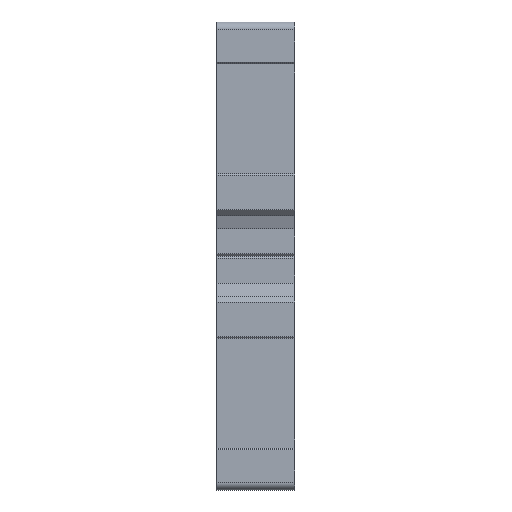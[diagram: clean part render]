
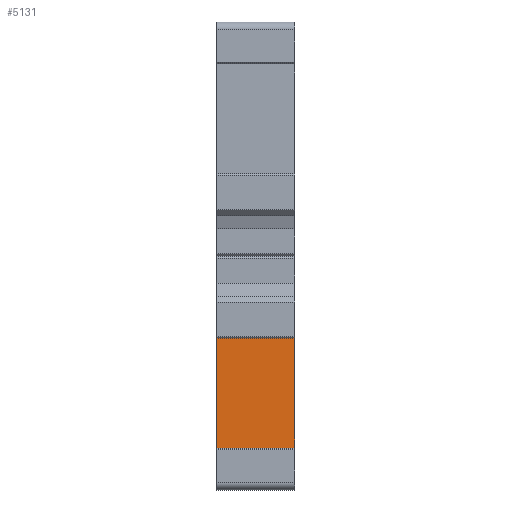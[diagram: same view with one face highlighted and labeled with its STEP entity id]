
A CAD part, left-side view. The second image highlights one B-rep face of the part: STEP entity #5131.
In plain terms, the highlighted planar face has unit normal (-1, 0, 0).
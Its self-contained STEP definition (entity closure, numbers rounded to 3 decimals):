
#264=DIRECTION('',(0.,0.,-1.));
#265=VECTOR('',#264,14.1);
#266=CARTESIAN_POINT('',(-22.3,0.,-10.525));
#267=LINE('',#266,#265);
#1108=DIRECTION('',(0.,0.,-1.));
#1109=VECTOR('',#1108,14.1);
#1110=CARTESIAN_POINT('',(-22.3,10.,-10.525));
#1111=LINE('',#1110,#1109);
#1899=DIRECTION('',(0.,1.,0.));
#1900=VECTOR('',#1899,10.);
#1901=CARTESIAN_POINT('',(-22.3,0.,-10.525));
#1902=LINE('',#1901,#1900);
#1903=DIRECTION('',(0.,1.,0.));
#1904=VECTOR('',#1903,10.);
#1905=CARTESIAN_POINT('',(-22.3,0.,-24.625));
#1906=LINE('',#1905,#1904);
#2506=CARTESIAN_POINT('',(-22.3,0.,-10.525));
#2508=VERTEX_POINT('',#2506);
#2509=CARTESIAN_POINT('',(-22.3,0.,-24.625));
#2510=VERTEX_POINT('',#2509);
#2570=CARTESIAN_POINT('',(-22.3,10.,-10.525));
#2572=VERTEX_POINT('',#2570);
#2573=CARTESIAN_POINT('',(-22.3,10.,-24.625));
#2574=VERTEX_POINT('',#2573);
#5119=CARTESIAN_POINT('',(-22.3,0.,-10.525));
#5120=DIRECTION('',(1.,0.,0.));
#5121=DIRECTION('',(0.,0.,-1.));
#5122=AXIS2_PLACEMENT_3D('',#5119,#5120,#5121);
#5123=PLANE('',#5122);
#5124=ORIENTED_EDGE('',*,*,#2692,.T.);
#5126=ORIENTED_EDGE('',*,*,#5125,.T.);
#5127=ORIENTED_EDGE('',*,*,#3200,.F.);
#5128=ORIENTED_EDGE('',*,*,#5112,.F.);
#5129=EDGE_LOOP('',(#5124,#5126,#5127,#5128));
#5130=FACE_OUTER_BOUND('',#5129,.F.);
#5131=ADVANCED_FACE('',(#5130),#5123,.F.);
#2692=EDGE_CURVE('',#2508,#2510,#267,.T.);
#3200=EDGE_CURVE('',#2572,#2574,#1111,.T.);
#5112=EDGE_CURVE('',#2508,#2572,#1902,.T.);
#5125=EDGE_CURVE('',#2510,#2574,#1906,.T.);
